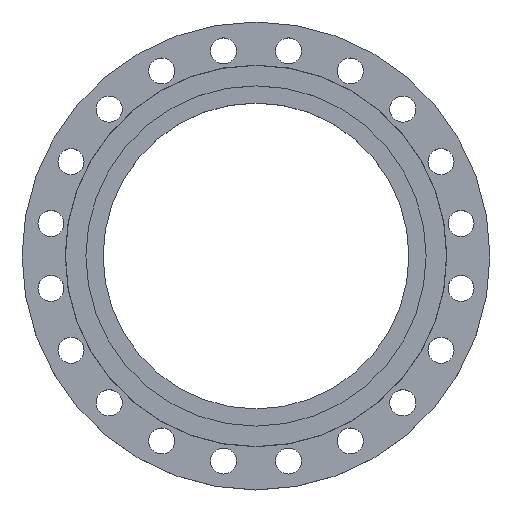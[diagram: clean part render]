
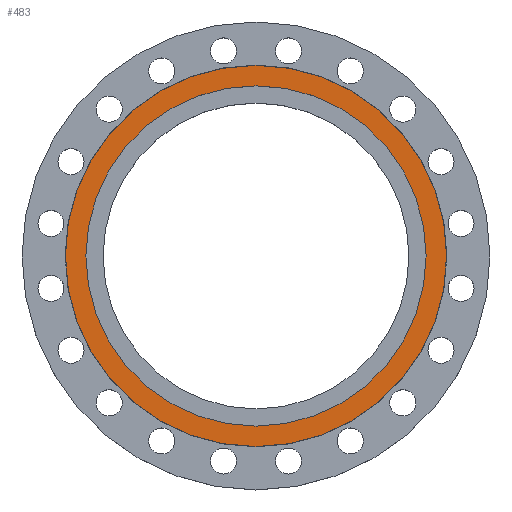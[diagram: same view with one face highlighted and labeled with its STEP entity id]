
A CAD part, top view. The second image highlights one B-rep face of the part: STEP entity #483.
In plain terms, the highlighted planar face has unit normal (0, 0, 1).
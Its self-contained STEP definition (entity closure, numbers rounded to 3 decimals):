
#6 = ORIENTED_EDGE ( 'NONE', *, *, #1835, .T. ) ;
#92 = FACE_BOUND ( 'NONE', #543, .T. ) ;
#134 = CARTESIAN_POINT ( 'NONE',  ( 274.5, 0., 0. ) ) ;
#154 = EDGE_CURVE ( 'NONE', #923, #534, #710, .T. ) ;
#211 = EDGE_CURVE ( 'NONE', #250, #329, #1040, .T. ) ;
#250 = VERTEX_POINT ( 'NONE', #339 ) ;
#329 = VERTEX_POINT ( 'NONE', #1782 ) ;
#339 = CARTESIAN_POINT ( 'NONE',  ( -307.5, 0., 0. ) ) ;
#404 = CARTESIAN_POINT ( 'NONE',  ( 0., 0., 0. ) ) ;
#421 = ORIENTED_EDGE ( 'NONE', *, *, #211, .F. ) ;
#471 = EDGE_CURVE ( 'NONE', #329, #250, #939, .T. ) ;
#473 = DIRECTION ( 'NONE',  ( 0., 0., -1. ) ) ;
#483 = ADVANCED_FACE ( 'NONE', ( #1503, #92 ), #728, .T. ) ;
#491 = DIRECTION ( 'NONE',  ( 0., 0., -1. ) ) ;
#534 = VERTEX_POINT ( 'NONE', #1381 ) ;
#543 = EDGE_LOOP ( 'NONE', ( #6, #1691 ) ) ;
#575 = DIRECTION ( 'NONE',  ( 1., 0., 0. ) ) ;
#600 = DIRECTION ( 'NONE',  ( -1., 0., 0. ) ) ;
#710 = CIRCLE ( 'NONE', #716, 274.5 ) ;
#716 = AXIS2_PLACEMENT_3D ( 'NONE', #1855, #473, #1098 ) ;
#728 = PLANE ( 'NONE',  #1135 ) ;
#806 = CIRCLE ( 'NONE', #816, 274.5 ) ;
#816 = AXIS2_PLACEMENT_3D ( 'NONE', #1383, #1962, #600 ) ;
#923 = VERTEX_POINT ( 'NONE', #134 ) ;
#939 = CIRCLE ( 'NONE', #1134, 307.5 ) ;
#1038 = DIRECTION ( 'NONE',  ( 0., 0., -1. ) ) ;
#1040 = CIRCLE ( 'NONE', #1041, 307.5 ) ;
#1041 = AXIS2_PLACEMENT_3D ( 'NONE', #1872, #491, #1116 ) ;
#1098 = DIRECTION ( 'NONE',  ( -1., 0., 0. ) ) ;
#1116 = DIRECTION ( 'NONE',  ( -1., 0., 0. ) ) ;
#1134 = AXIS2_PLACEMENT_3D ( 'NONE', #404, #1038, #1665 ) ;
#1135 = AXIS2_PLACEMENT_3D ( 'NONE', #1362, #1944, #575 ) ;
#1284 = ORIENTED_EDGE ( 'NONE', *, *, #471, .F. ) ;
#1362 = CARTESIAN_POINT ( 'NONE',  ( 0., 0., 0. ) ) ;
#1381 = CARTESIAN_POINT ( 'NONE',  ( -274.5, 0., 0. ) ) ;
#1383 = CARTESIAN_POINT ( 'NONE',  ( 0., 0., 0. ) ) ;
#1503 = FACE_OUTER_BOUND ( 'NONE', #1822, .T. ) ;
#1665 = DIRECTION ( 'NONE',  ( -1., 0., 0. ) ) ;
#1691 = ORIENTED_EDGE ( 'NONE', *, *, #154, .T. ) ;
#1782 = CARTESIAN_POINT ( 'NONE',  ( 307.5, 0., 0. ) ) ;
#1822 = EDGE_LOOP ( 'NONE', ( #421, #1284 ) ) ;
#1835 = EDGE_CURVE ( 'NONE', #534, #923, #806, .T. ) ;
#1855 = CARTESIAN_POINT ( 'NONE',  ( 0., 0., 0. ) ) ;
#1872 = CARTESIAN_POINT ( 'NONE',  ( 0., 0., 0. ) ) ;
#1944 = DIRECTION ( 'NONE',  ( 0., 0., 1. ) ) ;
#1962 = DIRECTION ( 'NONE',  ( 0., 0., -1. ) ) ;
